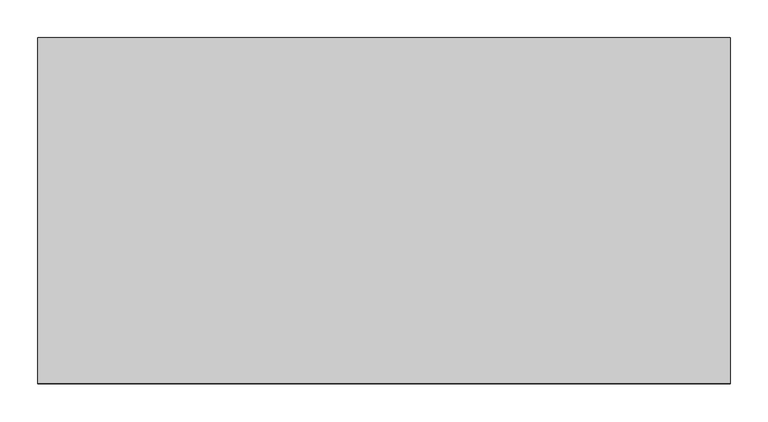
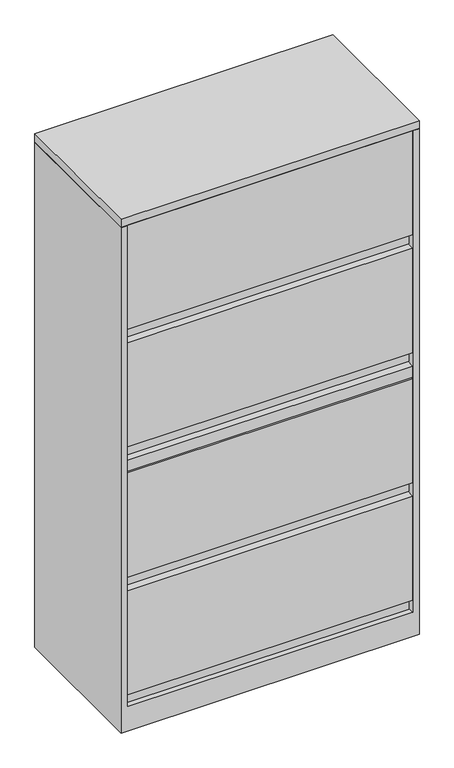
"""IFC4 building model written with IfcOpenShell, lengths in millimetres: furniture geometry, Steelcase - 900 Series - Storage - Lateral File With Roll Out Shelf - Flush Steel : 65 1/2H x 36W - 1 1⁄2H Filler."""

from ifc_helpers import new_model, si_unit, frame, origin, place, context, project, spatial, polyline, outline, extrude, faceted_brep, source, transform, mapped, element, save


def furniture_35b08e17(model_context):
    return source(origin(), model_context, "Body", "SolidModel", [
        extrude(outline(polyline([(-439.6742224, 1296.1620299), (-457.2, 1300.531676), (-457.2, 1637.8935942), (-431.800255, 1637.8935942), (-431.800255, 1261.6179926), (-439.6742224, 1261.6179926), (-439.6742224, 1296.1620299)])), frame((20.8289612, 0.0, 0.0), z_axis=(1.0, 0.0, 0.0), x_axis=(0.0, 1.0, 0.0)), (0.0, 0.0, 1.0), 872.7432404),
        extrude(outline(polyline([(-439.6742224, 493.522034), (-457.2, 497.89168), (-457.2, 835.2535983), (-431.800255, 835.2535983), (-431.800255, 458.9779967), (-439.6742224, 458.9779967), (-439.6742224, 493.522034)])), frame((20.8289612, 0.0, 0.0), z_axis=(1.0, 0.0, 0.0), x_axis=(0.0, 1.0, 0.0)), (0.0, 0.0, 1.0), 872.7432404),
        extrude(outline(polyline([(-439.6742224, 112.5220364), (-457.2, 116.8916825), (-457.2, 454.2536007), (-431.800255, 454.2536007), (-431.800255, 77.9779983), (-439.6742224, 77.9779983), (-439.6742224, 112.5220364)])), frame((20.8289612, 0.0, 0.0), z_axis=(1.0, 0.0, 0.0), x_axis=(0.0, 1.0, 0.0)), (0.0, 0.0, 1.0), 872.7432404),
        extrude(outline(polyline([(-439.6742224, 915.162034), (-457.2, 919.53168), (-457.2, 1256.8935983), (-431.800255, 1256.8935983), (-431.800255, 880.6179942), (-439.6742224, 880.6179942), (-439.6742224, 915.162034)])), frame((20.8289612, 0.0, 0.0), z_axis=(1.0, 0.0, 0.0), x_axis=(0.0, 1.0, 0.0)), (0.0, 0.0, 1.0), 872.7432404),
        extrude(outline(polyline([(893.5722015, -457.2), (20.8289612, -457.2), (20.8289612, -431.800255), (893.5722015, -431.800255), (893.5722015, -457.2)])), frame((0.0, 0.0, 839.9779983), z_axis=(0.0, 0.0, 1.0), x_axis=(1.0, 0.0, 0.0)), (0.0, 0.0, 1.0), 35.9156),
        faceted_brep([(895.0960184, -25.2721219, 1636.776), (895.0960184, -457.2, 1636.776), (914.4, -457.2, 1636.776), (914.4, 0.0, 1636.776), (0.0, 0.0, 1636.776), (0.0, -457.2, 1636.776), (19.3039998, -457.2, 1636.776), (19.3039998, -25.2721219, 1636.776), (0.0, -457.2, 0.0), (0.0, 0.0, 0.0), (914.4, 0.0, 0.0), (914.4, -457.2, 0.0), (895.0960184, -25.2721219, 406.7048), (895.0960184, -431.800255, 406.7048), (895.0960184, -431.800255, 381.254), (895.0960184, -25.2721219, 381.254), (895.0960184, -25.2721219, 103.3780013), (895.0960184, -430.275847, 103.3780013), (895.0960184, -430.275847, 77.9779983), (895.0960184, -457.2, 77.9779983), (19.3039998, -457.2, 77.9779983), (19.3039998, -430.275847, 77.9779983), (19.3039998, -430.275847, 103.3780013), (19.3039998, -25.2721219, 103.3780013), (19.3039998, -25.2721219, 381.254), (19.3039998, -431.800255, 381.254), (19.3039998, -431.800255, 406.7048), (19.3039998, -25.2721219, 406.7048)], [[[0, 1, 2, 3, 4, 5, 6, 7]], [[8, 9, 10, 11]], [[1, 0, 12, 13, 14, 15, 16, 17, 18, 19]], [[2, 1, 19, 20, 6, 5, 8, 11]], [[3, 2, 11, 10]], [[4, 3, 10, 9]], [[5, 4, 9, 8]], [[7, 6, 20, 21, 22, 23, 24, 25, 26, 27]], [[0, 7, 27, 12]], [[16, 15, 24, 23]], [[18, 21, 20, 19]], [[22, 17, 16, 23]], [[21, 18, 17, 22]], [[26, 13, 12, 27]], [[13, 26, 25, 14]], [[14, 25, 24, 15]]]),
        faceted_brep([(914.4, 0.0, 1663.7), (0.0, 0.0, 1663.7), (0.0, -457.2, 1663.7), (914.4, -457.2, 1663.7), (914.4, 0.0, 1638.2999516), (914.4, -457.2, 1638.2999516), (0.0, -457.2, 1638.2999516), (0.0, 0.0, 1638.2999516), (895.0960184, -25.2721219, 1638.2999516), (20.8289612, -25.2721219, 1638.2999516), (20.8289612, -415.9241219, 1638.2999516), (895.0960184, -415.9241219, 1638.2999516), (895.0960184, -25.2721219, 1636.776), (895.0960184, -415.9241219, 1636.776), (20.8289612, -415.9241219, 1636.776), (20.8289612, -25.2721219, 1636.776)], [[[0, 1, 2, 3]], [[4, 5, 6, 7], [8, 9, 10, 11]], [[1, 0, 4, 7]], [[2, 1, 7, 6]], [[3, 2, 6, 5]], [[0, 3, 5, 4]], [[12, 13, 14, 15]], [[12, 15, 9, 8]], [[15, 14, 10, 9]], [[14, 13, 11, 10]], [[13, 12, 8, 11]]]),
    ])


if __name__ == "__main__":
    model = new_model("IFC4")
    model_context = context("Model", 3, world=origin())
    ifc_project = project(units=[si_unit("LENGTHUNIT", "METRE", prefix="MILLI")], contexts=[model_context])
    site = spatial("IfcSite", under=ifc_project)
    building = spatial("IfcBuilding", under=site)
    placement = place(None, origin())
    furniture_shape = furniture_35b08e17(model_context)
    element("IfcFurniture", 1, ObjectType="Steelcase - 900 Series - Storage - Lateral File With Roll Out Shelf - Flush Steel : 65 1/2H x 36W - 1 1⁄2H Filler", at=placement, inside=building, context=model_context, shape_type="MappedRepresentation", body=[
        mapped(furniture_shape, transform((0.0, 0.0, 0.0), x_axis=(1.0, 0.0, 0.0), y_axis=(0.0, 1.0, 0.0), z_axis=(0.0, 0.0, 1.0))),
    ])
    save(model, "model.ifc")
